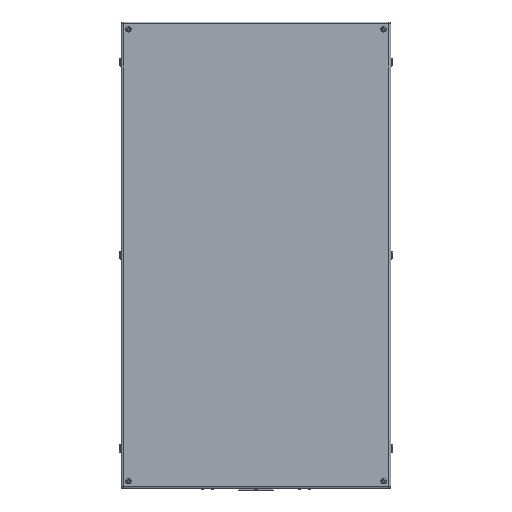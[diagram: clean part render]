
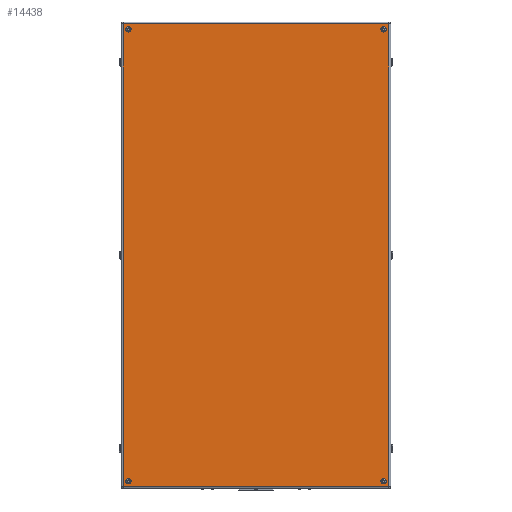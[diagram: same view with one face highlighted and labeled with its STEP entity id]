
A CAD part, front view. The second image highlights one B-rep face of the part: STEP entity #14438.
In plain terms, the highlighted planar face has unit normal (0, -1, 0).
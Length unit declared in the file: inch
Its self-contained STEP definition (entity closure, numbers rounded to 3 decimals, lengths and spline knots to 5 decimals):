
#251 = ORIENTED_EDGE ( 'NONE', *, *, #7958, .T. ) ;
#322 = EDGE_CURVE ( 'NONE', #11473, #15044, #9925, .T. ) ;
#790 = DIRECTION ( 'NONE',  ( 0., -1., 0. ) ) ;
#1045 = CARTESIAN_POINT ( 'NONE',  ( 17.5, -13., 31. ) ) ;
#1141 = CARTESIAN_POINT ( 'NONE',  ( -18.234, -13., 31.734 ) ) ;
#1152 = VECTOR ( 'NONE', #8892, 39.37008 ) ;
#1166 = ORIENTED_EDGE ( 'NONE', *, *, #11223, .T. ) ;
#1221 = LINE ( 'NONE', #8745, #10828 ) ;
#1250 = ORIENTED_EDGE ( 'NONE', *, *, #7829, .F. ) ;
#1279 = EDGE_CURVE ( 'NONE', #13792, #6852, #14578, .T. ) ;
#1366 = CARTESIAN_POINT ( 'NONE',  ( -18.234, -13., -31.734 ) ) ;
#1431 = FACE_BOUND ( 'NONE', #13587, .T. ) ;
#1456 = CARTESIAN_POINT ( 'NONE',  ( -17.5, -13., 30.62598 ) ) ;
#1490 = AXIS2_PLACEMENT_3D ( 'NONE', #13008, #4500, #3085 ) ;
#1780 = ORIENTED_EDGE ( 'NONE', *, *, #322, .F. ) ;
#1850 = VERTEX_POINT ( 'NONE', #8274 ) ;
#2358 = AXIS2_PLACEMENT_3D ( 'NONE', #9027, #15335, #6541 ) ;
#2731 = DIRECTION ( 'NONE',  ( 0., 0., -1. ) ) ;
#3085 = DIRECTION ( 'NONE',  ( 0., 0., -1. ) ) ;
#3116 = DIRECTION ( 'NONE',  ( 0., 0., -1. ) ) ;
#3133 = AXIS2_PLACEMENT_3D ( 'NONE', #4916, #6182, #11206 ) ;
#3207 = CARTESIAN_POINT ( 'NONE',  ( 17.5, -13., -31. ) ) ;
#3209 = ORIENTED_EDGE ( 'NONE', *, *, #4443, .F. ) ;
#3225 = EDGE_CURVE ( 'NONE', #13110, #8762, #10553, .T. ) ;
#3554 = EDGE_LOOP ( 'NONE', ( #1250, #10338 ) ) ;
#3625 = CARTESIAN_POINT ( 'NONE',  ( 17.5, -13., 31.37402 ) ) ;
#3632 = VERTEX_POINT ( 'NONE', #10179 ) ;
#3728 = CARTESIAN_POINT ( 'NONE',  ( 18.234, -13., 31.734 ) ) ;
#3797 = CARTESIAN_POINT ( 'NONE',  ( -17.5, -13., -31. ) ) ;
#3812 = LINE ( 'NONE', #1141, #11487 ) ;
#4032 = EDGE_CURVE ( 'NONE', #1850, #10250, #14942, .T. ) ;
#4443 = EDGE_CURVE ( 'NONE', #10250, #1850, #5220, .T. ) ;
#4473 = CIRCLE ( 'NONE', #14480, 0.37402 ) ;
#4500 = DIRECTION ( 'NONE',  ( 0., -1., 0. ) ) ;
#4596 = AXIS2_PLACEMENT_3D ( 'NONE', #15495, #11872, #2731 ) ;
#4871 = EDGE_LOOP ( 'NONE', ( #1780, #8441 ) ) ;
#4916 = CARTESIAN_POINT ( 'NONE',  ( -17.5, -13., 31. ) ) ;
#4940 = AXIS2_PLACEMENT_3D ( 'NONE', #3207, #790, #13195 ) ;
#5155 = AXIS2_PLACEMENT_3D ( 'NONE', #3797, #11350, #13863 ) ;
#5220 = CIRCLE ( 'NONE', #4940, 0.37402 ) ;
#5253 = DIRECTION ( 'NONE',  ( 1., 0., 0. ) ) ;
#5351 = EDGE_CURVE ( 'NONE', #8098, #10895, #16080, .T. ) ;
#5631 = DIRECTION ( 'NONE',  ( 0., -1., 0. ) ) ;
#6182 = DIRECTION ( 'NONE',  ( 0., -1., 0. ) ) ;
#6227 = CARTESIAN_POINT ( 'NONE',  ( -17.5, -13., -31.37402 ) ) ;
#6541 = DIRECTION ( 'NONE',  ( 0., 0., 1. ) ) ;
#6551 = FACE_BOUND ( 'NONE', #4871, .T. ) ;
#6843 = CARTESIAN_POINT ( 'NONE',  ( 18.234, -13., -31.734 ) ) ;
#6852 = VERTEX_POINT ( 'NONE', #3625 ) ;
#7153 = ORIENTED_EDGE ( 'NONE', *, *, #7339, .F. ) ;
#7339 = EDGE_CURVE ( 'NONE', #10895, #8098, #4473, .T. ) ;
#7527 = CARTESIAN_POINT ( 'NONE',  ( 18.234, -13., -31.734 ) ) ;
#7800 = FACE_BOUND ( 'NONE', #3554, .T. ) ;
#7829 = EDGE_CURVE ( 'NONE', #6852, #13792, #9551, .T. ) ;
#7952 = CARTESIAN_POINT ( 'NONE',  ( 17.5, -13., -31. ) ) ;
#7958 = EDGE_CURVE ( 'NONE', #8762, #8005, #1221, .T. ) ;
#7991 = ORIENTED_EDGE ( 'NONE', *, *, #5351, .F. ) ;
#8005 = VERTEX_POINT ( 'NONE', #3728 ) ;
#8098 = VERTEX_POINT ( 'NONE', #1456 ) ;
#8194 = DIRECTION ( 'NONE',  ( 0., 0., 1. ) ) ;
#8274 = CARTESIAN_POINT ( 'NONE',  ( 17.5, -13., -30.62598 ) ) ;
#8308 = VECTOR ( 'NONE', #5253, 39.37008 ) ;
#8402 = DIRECTION ( 'NONE',  ( 0., -1., 0. ) ) ;
#8441 = ORIENTED_EDGE ( 'NONE', *, *, #11949, .F. ) ;
#8451 = CARTESIAN_POINT ( 'NONE',  ( -17.5, -13., -30.62598 ) ) ;
#8745 = CARTESIAN_POINT ( 'NONE',  ( 18.234, -13., 31.734 ) ) ;
#8762 = VERTEX_POINT ( 'NONE', #7527 ) ;
#8892 = DIRECTION ( 'NONE',  ( 0., 0., -1. ) ) ;
#9027 = CARTESIAN_POINT ( 'NONE',  ( 17.5, -13., 31. ) ) ;
#9223 = EDGE_LOOP ( 'NONE', ( #251, #15446, #1166, #15188 ) ) ;
#9537 = LINE ( 'NONE', #14519, #1152 ) ;
#9551 = CIRCLE ( 'NONE', #2358, 0.37402 ) ;
#9895 = AXIS2_PLACEMENT_3D ( 'NONE', #1045, #8402, #13366 ) ;
#9925 = CIRCLE ( 'NONE', #4596, 0.37402 ) ;
#10179 = CARTESIAN_POINT ( 'NONE',  ( -18.234, -13., 31.734 ) ) ;
#10250 = VERTEX_POINT ( 'NONE', #10613 ) ;
#10337 = FACE_OUTER_BOUND ( 'NONE', #9223, .T. ) ;
#10338 = ORIENTED_EDGE ( 'NONE', *, *, #1279, .F. ) ;
#10506 = DIRECTION ( 'NONE',  ( 0., -1., 0. ) ) ;
#10553 = LINE ( 'NONE', #6843, #8308 ) ;
#10613 = CARTESIAN_POINT ( 'NONE',  ( 17.5, -13., -31.37402 ) ) ;
#10828 = VECTOR ( 'NONE', #13535, 39.37008 ) ;
#10895 = VERTEX_POINT ( 'NONE', #11367 ) ;
#10933 = EDGE_CURVE ( 'NONE', #8005, #3632, #3812, .T. ) ;
#11000 = ORIENTED_EDGE ( 'NONE', *, *, #4032, .F. ) ;
#11206 = DIRECTION ( 'NONE',  ( 0., 0., -1. ) ) ;
#11223 = EDGE_CURVE ( 'NONE', #3632, #13110, #9537, .T. ) ;
#11350 = DIRECTION ( 'NONE',  ( 0., -1., 0. ) ) ;
#11367 = CARTESIAN_POINT ( 'NONE',  ( -17.5, -13., 31.37402 ) ) ;
#11473 = VERTEX_POINT ( 'NONE', #8451 ) ;
#11487 = VECTOR ( 'NONE', #14794, 39.37008 ) ;
#11872 = DIRECTION ( 'NONE',  ( 0., -1., 0. ) ) ;
#11949 = EDGE_CURVE ( 'NONE', #15044, #11473, #14097, .T. ) ;
#12767 = FACE_BOUND ( 'NONE', #13071, .T. ) ;
#13008 = CARTESIAN_POINT ( 'NONE',  ( 0., -13., 0. ) ) ;
#13071 = EDGE_LOOP ( 'NONE', ( #11000, #3209 ) ) ;
#13110 = VERTEX_POINT ( 'NONE', #1366 ) ;
#13195 = DIRECTION ( 'NONE',  ( 0., 0., 1. ) ) ;
#13366 = DIRECTION ( 'NONE',  ( 0., 0., 1. ) ) ;
#13535 = DIRECTION ( 'NONE',  ( 0., 0., 1. ) ) ;
#13587 = EDGE_LOOP ( 'NONE', ( #7153, #7991 ) ) ;
#13792 = VERTEX_POINT ( 'NONE', #14208 ) ;
#13863 = DIRECTION ( 'NONE',  ( 0., 0., -1. ) ) ;
#14097 = CIRCLE ( 'NONE', #5155, 0.37402 ) ;
#14208 = CARTESIAN_POINT ( 'NONE',  ( 17.5, -13., 30.62598 ) ) ;
#14438 = ADVANCED_FACE ( 'NONE', ( #7800, #12767, #1431, #6551, #10337 ), #15344, .T. ) ;
#14480 = AXIS2_PLACEMENT_3D ( 'NONE', #15784, #5631, #3116 ) ;
#14519 = CARTESIAN_POINT ( 'NONE',  ( -18.234, -13., -31.734 ) ) ;
#14578 = CIRCLE ( 'NONE', #9895, 0.37402 ) ;
#14794 = DIRECTION ( 'NONE',  ( -1., 0., 0. ) ) ;
#14942 = CIRCLE ( 'NONE', #16273, 0.37402 ) ;
#15044 = VERTEX_POINT ( 'NONE', #6227 ) ;
#15188 = ORIENTED_EDGE ( 'NONE', *, *, #3225, .T. ) ;
#15335 = DIRECTION ( 'NONE',  ( 0., -1., 0. ) ) ;
#15344 = PLANE ( 'NONE',  #1490 ) ;
#15446 = ORIENTED_EDGE ( 'NONE', *, *, #10933, .T. ) ;
#15495 = CARTESIAN_POINT ( 'NONE',  ( -17.5, -13., -31. ) ) ;
#15784 = CARTESIAN_POINT ( 'NONE',  ( -17.5, -13., 31. ) ) ;
#16080 = CIRCLE ( 'NONE', #3133, 0.37402 ) ;
#16273 = AXIS2_PLACEMENT_3D ( 'NONE', #7952, #10506, #8194 ) ;
